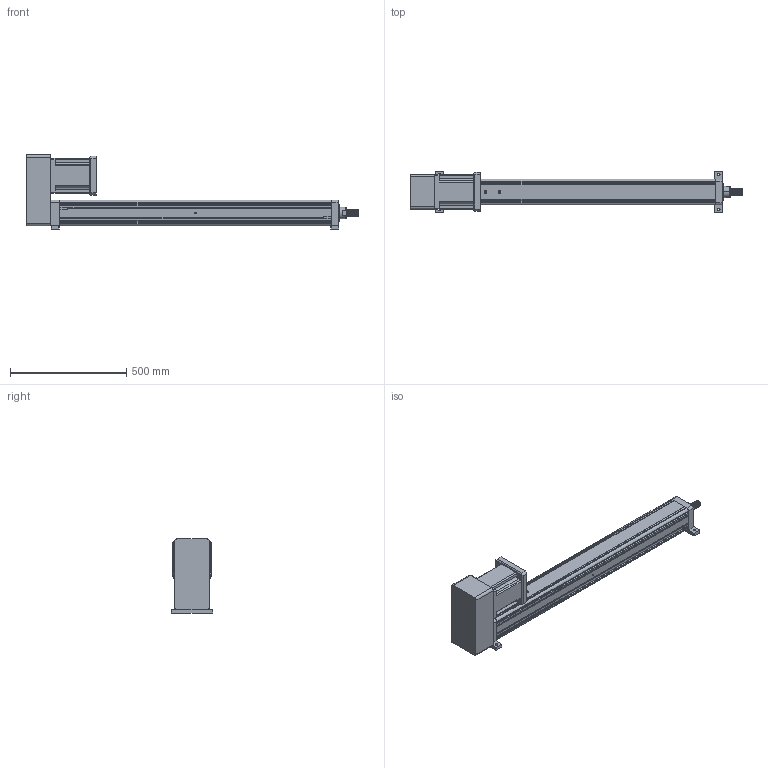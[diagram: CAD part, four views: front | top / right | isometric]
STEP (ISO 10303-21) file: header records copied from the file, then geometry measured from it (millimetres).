
FILE_DESCRIPTION (( 'STEP AP203' ), '1' );
FILE_NAME ('YRJ110-L1000-H2K1.STEP', '2020-01-04T06:07:09', ( 'User' ), ( 'China' ), 'SwSTEP 2.0', 'SolidWorks 2016', '' );
FILE_SCHEMA (( 'CONFIG_CONTROL_DESIGN' ));
Length unit declared in the file: millimetre
Products named in the file (7): 095-100俴最倰第; 萇儂碟-110; 142熬厒儂; H2-110-1; H2-110-2; K1-110; YRJ110-L1000-H2K1
Assembly tree (6 placements, depth 2):
  YRJ110-L1000-H2K1
    095-100俴最倰第
    萇儂碟-110
    142熬厒儂
    H2-110-1
    H2-110-2
    K1-110
Bounding box: 1431 x 180 x 320 mm (x, y, z)
Volume: 14759087.1 mm3; surface area: 1515945.7 mm2
Topology: 6 solids, 6 shells, 373 faces, 1033 edges, 668 vertices
Faces by surface type: plane 186, cylinder 156, cone 27, bspline 4
Entity records: 20550 total; most frequent: CARTESIAN_POINT 10416, ORIENTED_EDGE 2034, DIRECTION 1879, EDGE_CURVE 1017, VERTEX_POINT 668, VECTOR 657, LINE 657, AXIS2_PLACEMENT_3D 611
